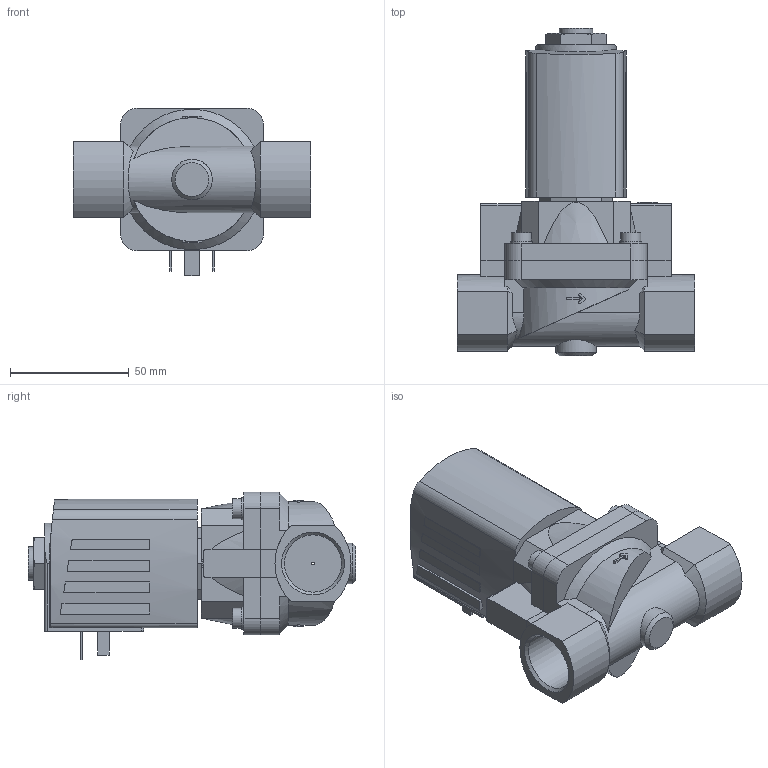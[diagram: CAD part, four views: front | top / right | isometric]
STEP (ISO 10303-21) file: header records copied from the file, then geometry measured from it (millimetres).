
FILE_DESCRIPTION(/* description */ ('STEP AP214'),/* implementation_level */ '2;1');
FILE_NAME(/* name */ '6407-336630-Servo-assisted_2_2_way_piston_valve',/* time_stamp */ '2024-09-15T16:40:05+02:00',/* author */ ('License CC BY-ND 4.0'),/* organization */ ('CADENAS'),/* preprocessor_version */ 'ST-DEVELOPER v19.3',/* originating_system */ 'PARTsolutions',/* authorisation */ ' ');
FILE_SCHEMA (('AUTOMOTIVE_DESIGN {1 0 10303 214 3 1 1}'));
Length unit declared in the file: millimetre
Products named in the file (4): 6407-336630-Servo-assisted 2/2 way piston valve; 5282g-8520MS000-2/2-Wege-Magnetventil_Gehaeuse; 5282d-20MSAU5N-2/2-Wege-Magnetventil_Deckel; AC10ex-42SG=k-Plan-Coil
Assembly tree (3 placements, depth 2):
  6407-336630-Servo-assisted 2/2 way piston valve
    5282g-8520MS000-2/2-Wege-Magnetventil_Gehaeuse
    5282d-20MSAU5N-2/2-Wege-Magnetventil_Deckel
    AC10ex-42SG=k-Plan-Coil
Bounding box: 100 x 137.7 x 70.5 mm (x, y, z)
Volume: 313697.8 mm3; surface area: 52325.8 mm2
Topology: 3 solids, 3 shells, 267 faces, 683 edges, 451 vertices
Faces by surface type: plane 178, cylinder 63, cone 26
Full cylindrical faces by diameter (mm): 1 x1, 2.013 x1, 8.5 x4, 9.2 x4, 14 x1, 17 x1, 24.117 x2
Entity records: 8853 total; most frequent: CARTESIAN_POINT 1649, ORIENTED_EDGE 1320, DIRECTION 1320, EDGE_CURVE 660, AXIS2_PLACEMENT_3D 450, VERTEX_POINT 446, LINE 420, VECTOR 420
